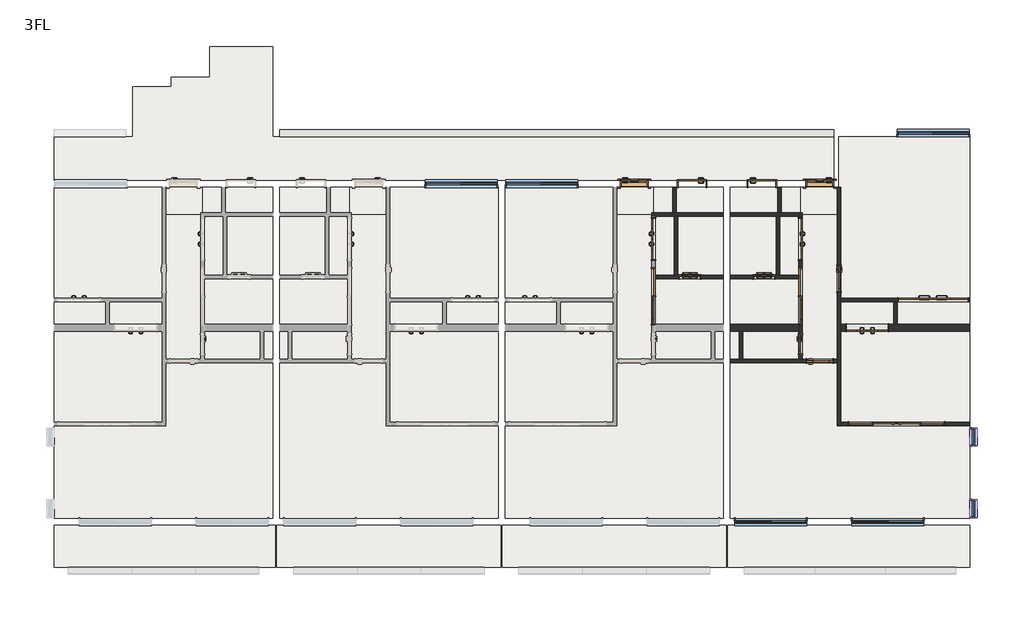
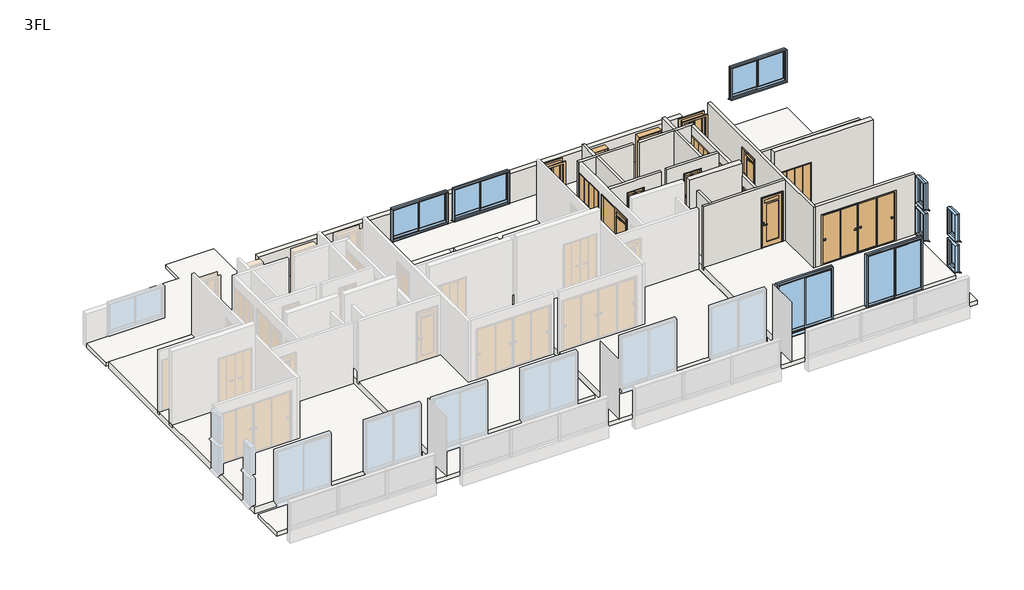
# One storey, part 3 of 3: 18 walls, 16 doors, 14 slabs, 9 windows.
"""IFC4 building model written with IfcOpenShell, lengths in millimetres."""

from ifc_helpers import new_model, si_unit, frame, origin, place, context, project, spatial, polyline, outline, extrude, faceted_brep, transform, mapped, element, save
from components import door_800x2000_a7d1584b, door_800x2000_010bfebf, w1200h2000_6a144d60, w1200h2000_99d19fb3, w1200h2000_ebe1d490, w1600h2000_4c3c234a, w1600h2000_ca690e72, w2000h2000_5dbb6d6a, w2800h2000_04aa64cd, w600h2000_6a266bef, w600h2000_94bb9c3c, w600h2000_8ea70a65, w800h2000_1d97c4d4, w800h2000_13e9f519, w800h2000_ccb03061, w800h2000_0ab7d42c, window_2000x1200_fc91d1cf, window_2000x2000_f1ff98da, window_450x1000_1cddc73c

model = new_model("IFC4")

# Units and contexts
model_context = context("Model", 3, world=origin())
ifc_project = project(units=[si_unit("LENGTHUNIT", "METRE", prefix="MILLI")], contexts=[model_context])

# Site, building, storey
site = spatial("IfcSite", under=ifc_project)
building = spatial("IfcBuilding", under=site)
storey = spatial("IfcBuildingStorey", under=building, Name="3FL", Elevation=7000.0)

# Doors
placement = place(None, origin())
door_800x2000_shape = door_800x2000_a7d1584b(model_context)
element("IfcDoor", 1, ObjectType="片開き3 : 800x2000", at=placement, inside=storey, context=model_context, shape_type="MappedRepresentation", body=[
    mapped(door_800x2000_shape, transform((5521.2812754, -5700.1171638, 7000.0), x_axis=(1.0, 0.0, 0.0), y_axis=(0.0, 1.0, 0.0), z_axis=(0.0, 0.0, 1.0))),
])
door_800x2000_2_shape = door_800x2000_010bfebf(model_context)
element("IfcDoor", 2, ObjectType="片開き3 : 800x2000", at=placement, inside=storey, context=model_context, shape_type="MappedRepresentation", body=[
    mapped(door_800x2000_2_shape, transform((10821.2812754, -5700.1171638, 7000.0), x_axis=(-1.0, 0.0, 0.0), y_axis=(0.0, -1.0, 0.0), z_axis=(0.0, 0.0, 1.0))),
])
w1200h2000_shape = w1200h2000_6a144d60(model_context)
element("IfcDoor", 3, ObjectType="木製折戸 : w1200h2000", at=placement, inside=storey, context=model_context, shape_type="MappedRepresentation", body=[
    mapped(w1200h2000_shape, transform((6071.2812754, -7280.1171638, 7100.0), x_axis=(0.0, 1.0, 0.0), y_axis=(-1.0, 0.0, 0.0), z_axis=(0.0, 0.0, 1.0))),
])
w1200h2000_2_shape = w1200h2000_99d19fb3(model_context)
element("IfcDoor", 4, ObjectType="木製折戸 : w1200h2000", at=placement, inside=storey, context=model_context, shape_type="MappedRepresentation", body=[
    mapped(w1200h2000_2_shape, transform((10271.2812754, -7280.1171638, 7100.0), x_axis=(0.0, 1.0, 0.0), y_axis=(-1.0, 0.0, 0.0), z_axis=(0.0, 0.0, 1.0))),
])
w1200h2000_3_shape = w1200h2000_ebe1d490(model_context)
element("IfcDoor", 5, ObjectType="木製折戸 : w1200h2000", at=placement, inside=storey, context=model_context, shape_type="MappedRepresentation", body=[
    mapped(w1200h2000_3_shape, transform((12183.7812754, -9820.1171638, 7100.0), x_axis=(1.0, 0.0, 0.0), y_axis=(0.0, 1.0, 0.0), z_axis=(0.0, 0.0, 1.0))),
])
w1600h2000_shape = w1600h2000_4c3c234a(model_context)
element("IfcDoor", 6, ObjectType="片引戸CL2017 : w1600h2000", at=placement, inside=storey, context=model_context, shape_type="MappedRepresentation", body=[
    mapped(w1600h2000_shape, transform((6071.2812754, -8920.1171638, 7100.0), x_axis=(0.0, -1.0, 0.0), y_axis=(1.0, 0.0, 0.0), z_axis=(0.0, 0.0, 1.0))),
])
w1600h2000_2_shape = w1600h2000_ca690e72(model_context)
element("IfcDoor", 7, ObjectType="片引戸CL2017 : w1600h2000", at=placement, inside=storey, context=model_context, shape_type="MappedRepresentation", body=[
    mapped(w1600h2000_2_shape, transform((10271.2812754, -8920.1171638, 7100.0), x_axis=(0.0, -1.0, 0.0), y_axis=(1.0, 0.0, 0.0), z_axis=(0.0, 0.0, 1.0))),
])
w2000h2000_shape = w2000h2000_5dbb6d6a(model_context)
element("IfcDoor", 8, ObjectType="木製折戸 : w2000h2000", at=placement, inside=storey, context=model_context, shape_type="MappedRepresentation", body=[
    mapped(w2000h2000_shape, transform((14066.2812754, -9020.1171638, 7100.0), x_axis=(-1.0, 0.0, 0.0), y_axis=(0.0, -1.0, 0.0), z_axis=(0.0, 0.0, 1.0))),
])
w2800h2000_shape = w2800h2000_04aa64cd(model_context)
element("IfcDoor", 9, ObjectType="引違い 4 枚 2 溝_襖 : w2800h2000", at=placement, inside=storey, context=model_context, shape_type="MappedRepresentation", body=[
    mapped(w2800h2000_shape, transform((13026.8167793, -12570.1171638, 7100.0), x_axis=(1.0, 0.0, 0.0), y_axis=(0.0, 1.0, 0.0), z_axis=(0.0, 0.0, 1.0))),
])
w600h2000_shape = w600h2000_6a266bef(model_context)
element("IfcDoor", 10, ObjectType="浴室折戸 : w600h2000", at=placement, inside=storey, context=model_context, shape_type="MappedRepresentation", body=[
    mapped(w600h2000_shape, transform((7111.2812754, -8370.1171638, 7100.0), x_axis=(1.0, 0.0, 0.0), y_axis=(0.0, 1.0, 0.0), z_axis=(0.0, 0.0, 1.0))),
])
w600h2000_2_shape = w600h2000_94bb9c3c(model_context)
element("IfcDoor", 11, ObjectType="浴室折戸 : w600h2000", at=placement, inside=storey, context=model_context, shape_type="MappedRepresentation", body=[
    mapped(w600h2000_2_shape, transform((9231.2812754, -8370.1171638, 7100.0), x_axis=(-1.0, 0.0, 0.0), y_axis=(0.0, -1.0, 0.0), z_axis=(0.0, 0.0, 1.0))),
])
w600h2000_3_shape = w600h2000_8ea70a65(model_context)
element("IfcDoor", 12, ObjectType="片開戸CL2058 : w600h2000", at=placement, inside=storey, context=model_context, shape_type="MappedRepresentation", body=[
    mapped(w600h2000_3_shape, transform((10271.2812754, -10295.1171638, 7100.0), x_axis=(0.0, -1.0, 0.0), y_axis=(1.0, 0.0, 0.0), z_axis=(0.0, 0.0, 1.0))),
])
w800h2000_shape = w800h2000_1d97c4d4(model_context)
element("IfcDoor", 13, ObjectType="片開 : w800h2000", at=placement, inside=storey, context=model_context, shape_type="MappedRepresentation", body=[
    mapped(w800h2000_shape, transform((7171.2812754, -5700.1171638, 7000.0), x_axis=(-1.0, 0.0, 0.0), y_axis=(0.0, -1.0, 0.0), z_axis=(0.0, 0.0, 1.0))),
])
w800h2000_2_shape = w800h2000_13e9f519(model_context)
element("IfcDoor", 14, ObjectType="片開戸CL2058 : w800h2000", at=placement, inside=storey, context=model_context, shape_type="MappedRepresentation", body=[
    mapped(w800h2000_2_shape, transform((10821.2812754, -10770.1171638, 7100.0), x_axis=(1.0, 0.0, 0.0), y_axis=(0.0, 1.0, 0.0), z_axis=(0.0, 0.0, 1.0))),
])
w800h2000_3_shape = w800h2000_ccb03061(model_context)
element("IfcDoor", 15, ObjectType="片開戸CL2058 : w800h2000", at=placement, inside=storey, context=model_context, shape_type="MappedRepresentation", body=[
    mapped(w800h2000_3_shape, transform((11371.2812754, -8420.1171638, 7100.0), x_axis=(0.0, -1.0, 0.0), y_axis=(1.0, 0.0, 0.0), z_axis=(0.0, 0.0, 1.0))),
])
w800h2000_4_shape = w800h2000_0ab7d42c(model_context)
element("IfcDoor", 16, ObjectType="片開 : w800h2000", at=placement, inside=storey, context=model_context, shape_type="MappedRepresentation", body=[
    mapped(w800h2000_4_shape, transform((9171.2812754, -5700.1171638, 7000.0), x_axis=(1.0, 0.0, 0.0), y_axis=(0.0, 1.0, 0.0), z_axis=(0.0, 0.0, 1.0))),
])

# Slabs
element("IfcSlab", 17, ObjectType="RC150＋100", at=placement, inside=storey, context=model_context, shape_type="SweptSolid", body=[
    extrude(outline(polyline([(-4828.7187246, -15270.1171638), (-11078.7187246, -15270.1171638), (-11078.7187246, -5800.1171638), (-7928.7187246, -5800.1171638), (-7928.7187246, -6580.1171638), (-6828.7187246, -6580.1171638), (-6828.7187246, -5800.1171638), (-4828.7187246, -5800.1171638), (-4828.7187246, -6580.1171638), (-6188.7187246, -6580.1171638), (-6188.7187246, -8370.1171638), (-4828.7187246, -8370.1171638), (-4828.7187246, -15270.1171638)])), frame((0.0, 0.0, 6850.0), z_axis=(0.0, 0.0, 1.0), x_axis=(1.0, 0.0, 0.0)), (0.0, 0.0, 1.0), 250.0),
])
element("IfcSlab", 18, ObjectType="RC150＋100", at=placement, inside=storey, context=model_context, shape_type="SweptSolid", body=[
    extrude(outline(polyline([(-4628.7187246, -15270.1171638), (-4628.7187246, -8370.1171638), (-3268.7187246, -8370.1171638), (-3268.7187246, -6580.1171638), (-4628.7187246, -6580.1171638), (-4628.7187246, -5800.1171638), (-2628.7187246, -5800.1171638), (-2628.7187246, -6580.1171638), (-1528.7187246, -6580.1171638), (-1528.7187246, -5800.1171638), (1621.2812754, -5800.1171638), (1621.2812754, -15270.1171638), (-4628.7187246, -15270.1171638)])), frame((0.0, 0.0, 6850.0), z_axis=(0.0, 0.0, 1.0), x_axis=(1.0, 0.0, 0.0)), (0.0, 0.0, 1.0), 250.0),
])
element("IfcSlab", 19, ObjectType="RC150＋100", at=placement, inside=storey, context=model_context, shape_type="SweptSolid", body=[
    extrude(outline(polyline([(8071.2812754, -15270.1171638), (1821.2812754, -15270.1171638), (1821.2812754, -5800.1171638), (4971.2812754, -5800.1171638), (4971.2812754, -6580.1171638), (6071.2812754, -6580.1171638), (6071.2812754, -5800.1171638), (8071.2812754, -5800.1171638), (8071.2812754, -6580.1171638), (6711.2812754, -6580.1171638), (6711.2812754, -8370.1171638), (8071.2812754, -8370.1171638), (8071.2812754, -15270.1171638)])), frame((0.0, 0.0, 6850.0), z_axis=(0.0, 0.0, 1.0), x_axis=(1.0, 0.0, 0.0)), (0.0, 0.0, 1.0), 250.0),
])
element("IfcSlab", 20, ObjectType="RC150＋100", at=placement, inside=storey, context=model_context, shape_type="SweptSolid", body=[
    extrude(outline(polyline([(8271.2812754, -15270.1171638), (8271.2812754, -8370.1171638), (9631.2812754, -8370.1171638), (9631.2812754, -6580.1171638), (8271.2812754, -6580.1171638), (8271.2812754, -5800.1171638), (10271.2812754, -5800.1171638), (10271.2812754, -6580.1171638), (11371.2812754, -6580.1171638), (11371.2812754, -4350.1171638), (15121.2812754, -4350.1171638), (15121.2812754, -15270.1171638), (8271.2812754, -15270.1171638)])), frame((0.0, 0.0, 6850.0), z_axis=(0.0, 0.0, 1.0), x_axis=(1.0, 0.0, 0.0)), (0.0, 0.0, 1.0), 250.0),
])
element("IfcSlab", 21, ObjectType="RC150", at=placement, inside=storey, context=model_context, shape_type="SweptSolid", body=[
    extrude(outline(polyline([(-4828.7187246, -8370.1171638), (-6188.7187246, -8370.1171638), (-6188.7187246, -6580.1171638), (-4828.7187246, -6580.1171638), (-4828.7187246, -8370.1171638)])), frame((0.0, 0.0, 6850.0), z_axis=(0.0, 0.0, 1.0), x_axis=(1.0, 0.0, 0.0)), (0.0, 0.0, 1.0), 150.0),
])
element("IfcSlab", 22, ObjectType="RC150", at=placement, inside=storey, context=model_context, shape_type="SweptSolid", body=[
    extrude(outline(polyline([(-6828.7187246, -6580.1171638), (-7928.7187246, -6580.1171638), (-7928.7187246, -5800.1171638), (-6828.7187246, -5800.1171638), (-6828.7187246, -6580.1171638)])), frame((0.0, 0.0, 6800.0), z_axis=(0.0, 0.0, 1.0), x_axis=(1.0, 0.0, 0.0)), (0.0, 0.0, 1.0), 150.0),
])
element("IfcSlab", 23, ObjectType="RC150", at=placement, inside=storey, context=model_context, shape_type="SweptSolid", body=[
    extrude(outline(polyline([(-4628.7187246, -8370.1171638), (-4628.7187246, -6580.1171638), (-3268.7187246, -6580.1171638), (-3268.7187246, -8370.1171638), (-4628.7187246, -8370.1171638)])), frame((0.0, 0.0, 6850.0), z_axis=(0.0, 0.0, 1.0), x_axis=(1.0, 0.0, 0.0)), (0.0, 0.0, 1.0), 150.0),
])
element("IfcSlab", 24, ObjectType="RC150", at=placement, inside=storey, context=model_context, shape_type="SweptSolid", body=[
    extrude(outline(polyline([(-2628.7187246, -6580.1171638), (-2628.7187246, -5800.1171638), (-1528.7187246, -5800.1171638), (-1528.7187246, -6580.1171638), (-2628.7187246, -6580.1171638)])), frame((0.0, 0.0, 6800.0), z_axis=(0.0, 0.0, 1.0), x_axis=(1.0, 0.0, 0.0)), (0.0, 0.0, 1.0), 150.0),
])
element("IfcSlab", 25, ObjectType="RC150", at=placement, inside=storey, context=model_context, shape_type="SweptSolid", body=[
    extrude(outline(polyline([(8071.2812754, -8370.1171638), (6711.2812754, -8370.1171638), (6711.2812754, -6580.1171638), (8071.2812754, -6580.1171638), (8071.2812754, -8370.1171638)])), frame((0.0, 0.0, 6850.0), z_axis=(0.0, 0.0, 1.0), x_axis=(1.0, 0.0, 0.0)), (0.0, 0.0, 1.0), 150.0),
])
element("IfcSlab", 26, ObjectType="RC150", at=placement, inside=storey, context=model_context, shape_type="SweptSolid", body=[
    extrude(outline(polyline([(6071.2812754, -6580.1171638), (4971.2812754, -6580.1171638), (4971.2812754, -5800.1171638), (6071.2812754, -5800.1171638), (6071.2812754, -6580.1171638)])), frame((0.0, 0.0, 6800.0), z_axis=(0.0, 0.0, 1.0), x_axis=(1.0, 0.0, 0.0)), (0.0, 0.0, 1.0), 150.0),
])
element("IfcSlab", 27, ObjectType="RC150", at=placement, inside=storey, context=model_context, shape_type="SweptSolid", body=[
    extrude(outline(polyline([(8271.2812754, -8370.1171638), (8271.2812754, -6580.1171638), (9631.2812754, -6580.1171638), (9631.2812754, -8370.1171638), (8271.2812754, -8370.1171638)])), frame((0.0, 0.0, 6850.0), z_axis=(0.0, 0.0, 1.0), x_axis=(1.0, 0.0, 0.0)), (0.0, 0.0, 1.0), 150.0),
])
element("IfcSlab", 28, ObjectType="RC150", at=placement, inside=storey, context=model_context, shape_type="SweptSolid", body=[
    extrude(outline(polyline([(10271.2812754, -6580.1171638), (10271.2812754, -5800.1171638), (11371.2812754, -5800.1171638), (11371.2812754, -6580.1171638), (10271.2812754, -6580.1171638)])), frame((0.0, 0.0, 6800.0), z_axis=(0.0, 0.0, 1.0), x_axis=(1.0, 0.0, 0.0)), (0.0, 0.0, 1.0), 150.0),
])
element("IfcSlab", 29, ObjectType="RC150", at=placement, inside=storey, context=model_context, shape_type="SweptSolid", body=[
    extrude(outline(polyline([(15121.2812754, -15470.1171638), (15121.2812754, -16670.1171638), (-11078.7187246, -16670.1171638), (-11078.7187246, -15470.1171638), (15121.2812754, -15470.1171638)])), frame((0.0, 0.0, 6800.0), z_axis=(0.0, 0.0, 1.0), x_axis=(1.0, 0.0, 0.0)), (0.0, 0.0, 1.0), 150.0),
])
element("IfcSlab", 30, ObjectType="RC150", at=placement, inside=storey, context=model_context, shape_type="SweptSolid", body=[
    extrude(outline(polyline([(-8828.7187246, -4350.1171638), (-8828.7187246, -2920.1171638), (-7728.7187246, -2920.1171638), (-7728.7187246, -2660.1171638), (-6628.7187246, -2660.1171638), (-6628.7187246, -1775.1171638), (-4828.7187246, -1775.1171638), (-4828.7187246, -4350.1171638), (11221.2812754, -4350.1171638), (11221.2812754, -5600.1171638), (-11078.7187246, -5600.1171638), (-11078.7187246, -4350.1171638), (-8828.7187246, -4350.1171638)])), frame((0.0, 0.0, 6800.0), z_axis=(0.0, 0.0, 1.0), x_axis=(1.0, 0.0, 0.0)), (0.0, 0.0, 1.0), 150.0),
])

# Walls
element("IfcWall", 31, ObjectType="(R)RC200", at=placement, inside=storey, context=model_context, shape_type="Brep", body=[
    faceted_brep([(15121.2812754, -9720.1171638, 7000.0), (13046.2812754, -9720.1171638, 7000.0), (12946.2812754, -9720.1171638, 7000.0), (11421.2812754, -9720.1171638, 7000.0), (11421.2812754, -9720.1171638, 10000.0), (15121.2812754, -9720.1171638, 10000.0), (12803.7812754, -9720.1171638, 9120.0), (11563.7812754, -9720.1171638, 9120.0), (11563.7812754, -9720.1171638, 7100.0), (12803.7812754, -9720.1171638, 7100.0), (15121.2812754, -9920.1171638, 7000.0), (15121.2812754, -9920.1171638, 10000.0), (11421.2812754, -9920.1171638, 10000.0), (11421.2812754, -9920.1171638, 7000.0), (12803.7812754, -9920.1171638, 9120.0), (12803.7812754, -9920.1171638, 7100.0), (11563.7812754, -9920.1171638, 7100.0), (11563.7812754, -9920.1171638, 9120.0)], [[[0, 1, 2, 3, 4, 5], [6, 7, 8, 9]], [[10, 11, 12, 13], [14, 15, 16, 17]], [[3, 2, 1, 0, 10, 13]], [[5, 4, 12, 11]], [[4, 3, 13, 12]], [[15, 14, 6, 9]], [[16, 15, 9, 8]], [[17, 16, 8, 7]], [[14, 17, 7, 6]], [[0, 5, 11, 10]]]),
])
element("IfcWall", 32, ObjectType="(R)RC200", at=placement, inside=storey, context=model_context, shape_type="Brep", body=[
    faceted_brep([(10221.2812754, -9720.1171638, 7000.0), (8271.2812754, -9720.1171638, 7000.0), (8271.2812754, -9720.1171638, 10000.0), (10221.2812754, -9720.1171638, 10000.0), (10221.2812754, -9920.1171638, 7000.0), (10221.2812754, -9920.1171638, 10000.0), (8271.2812754, -9920.1171638, 10000.0), (8271.2812754, -9920.1171638, 7000.0), (8521.2812754, -9920.1171638, 7000.0), (8621.2812754, -9920.1171638, 7000.0)], [[[0, 1, 2, 3]], [[4, 5, 6, 7, 8, 9]], [[1, 0, 4, 9, 8, 7]], [[3, 2, 6, 5]], [[0, 3, 5, 4]], [[2, 1, 7, 6]]]),
])
element("IfcWall", 33, ObjectType="(R)RC200", at=placement, inside=storey, context=model_context, shape_type="SweptSolid", body=[
    extrude(outline(polyline([(11221.2812754, -4350.1171638), (-4628.7187246, -4350.1171638), (-4628.7187246, -4150.1171638), (11221.2812754, -4150.1171638), (11221.2812754, -4350.1171638)])), frame((0.0, 0.0, 6800.0), z_axis=(0.0, 0.0, 1.0), x_axis=(1.0, 0.0, 0.0)), (0.0, 0.0, 1.0), 1300.0),
])
element("IfcWall", 34, ObjectType="(L1)LGS100", at=placement, inside=storey, context=model_context, shape_type="Brep", body=[
    faceted_brep([(6121.2812754, -8420.1171638, 7000.0), (8071.2812754, -8420.1171638, 7000.0), (8071.2812754, -8420.1171638, 9500.0), (6121.2812754, -8420.1171638, 9500.0), (7431.2812754, -8420.1171638, 9120.0), (7431.2812754, -8420.1171638, 7100.0), (6791.2812754, -8420.1171638, 7100.0), (6791.2812754, -8420.1171638, 9120.0), (6121.2812754, -8320.1171638, 7000.0), (6121.2812754, -8320.1171638, 9500.0), (6661.2812754, -8320.1171638, 9500.0), (6761.2812754, -8320.1171638, 9500.0), (8071.2812754, -8320.1171638, 9500.0), (8071.2812754, -8320.1171638, 7000.0), (6761.2812754, -8320.1171638, 7000.0), (6661.2812754, -8320.1171638, 7000.0), (7431.2812754, -8320.1171638, 9120.0), (6791.2812754, -8320.1171638, 9120.0), (6791.2812754, -8320.1171638, 7100.0), (7431.2812754, -8320.1171638, 7100.0)], [[[0, 1, 2, 3], [4, 5, 6, 7]], [[8, 9, 10, 11, 12, 13, 14, 15], [16, 17, 18, 19]], [[1, 0, 8, 15, 14, 13]], [[3, 2, 12, 11, 10, 9]], [[0, 3, 9, 8]], [[5, 4, 16, 19]], [[6, 5, 19, 18]], [[7, 6, 18, 17]], [[4, 7, 17, 16]], [[2, 1, 13, 12]]]),
])
element("IfcWall", 35, ObjectType="(L1)LGS100", at=placement, inside=storey, context=model_context, shape_type="Brep", body=[
    faceted_brep([(6021.2812754, -6630.1171638, 7000.0), (6121.2812754, -6630.1171638, 7000.0), (6661.2812754, -6630.1171638, 7000.0), (6761.2812754, -6630.1171638, 7000.0), (8071.2812754, -6630.1171638, 7000.0), (8071.2812754, -6630.1171638, 9500.0), (6761.2812754, -6630.1171638, 9500.0), (6661.2812754, -6630.1171638, 9500.0), (6121.2812754, -6630.1171638, 9500.0), (6021.2812754, -6630.1171638, 9500.0), (6021.2812754, -6530.1171638, 7000.0), (6021.2812754, -6530.1171638, 9500.0), (6621.2812754, -6530.1171638, 9500.0), (6721.2812754, -6530.1171638, 9500.0), (8071.2812754, -6530.1171638, 9500.0), (8071.2812754, -6530.1171638, 7000.0), (6721.2812754, -6530.1171638, 7000.0), (6621.2812754, -6530.1171638, 7000.0)], [[[0, 1, 2, 3, 4, 5, 6, 7, 8, 9]], [[10, 11, 12, 13, 14, 15, 16, 17]], [[4, 3, 2, 1, 0, 10, 17, 16, 15]], [[9, 8, 7, 6, 5, 14, 13, 12, 11]], [[0, 9, 11, 10]], [[5, 4, 15, 14]]]),
])
element("IfcWall", 36, ObjectType="(L1)LGS100", at=placement, inside=storey, context=model_context, shape_type="SweptSolid", body=[
    extrude(outline(polyline([(6721.2812754, -5800.1171638), (6721.2812754, -6530.1171638), (6621.2812754, -6530.1171638), (6621.2812754, -5800.1171638), (6721.2812754, -5800.1171638)])), frame((0.0, 0.0, 7000.0), z_axis=(0.0, 0.0, 1.0), x_axis=(1.0, 0.0, 0.0)), (0.0, 0.0, 1.0), 2500.0),
])
element("IfcWall", 37, ObjectType="(L1)LGS100", at=placement, inside=storey, context=model_context, shape_type="SweptSolid", body=[
    extrude(outline(polyline([(6761.2812754, -6630.1171638), (6761.2812754, -8320.1171638), (6661.2812754, -8320.1171638), (6661.2812754, -6630.1171638), (6761.2812754, -6630.1171638)])), frame((0.0, 0.0, 7000.0), z_axis=(0.0, 0.0, 1.0), x_axis=(1.0, 0.0, 0.0)), (0.0, 0.0, 1.0), 2500.0),
])
element("IfcWall", 38, ObjectType="(L1)LGS100", at=placement, inside=storey, context=model_context, shape_type="Brep", body=[
    faceted_brep([(15121.2812754, -8970.1171638, 7000.0), (11421.2812754, -8970.1171638, 7000.0), (11421.2812754, -8970.1171638, 9500.0), (15121.2812754, -8970.1171638, 9500.0), (13046.2812754, -8970.1171638, 9120.0), (13046.2812754, -8970.1171638, 7100.0), (15086.2812754, -8970.1171638, 7100.0), (15086.2812754, -8970.1171638, 9120.0), (11421.2812754, -9070.1171638, 7000.0), (12946.2812754, -9070.1171638, 7000.0), (13046.2812754, -9070.1171638, 7000.0), (15121.2812754, -9070.1171638, 7000.0), (15121.2812754, -9070.1171638, 9500.0), (13046.2812754, -9070.1171638, 9500.0), (12946.2812754, -9070.1171638, 9500.0), (11421.2812754, -9070.1171638, 9500.0), (13046.2812754, -9070.1171638, 7100.0), (13046.2812754, -9070.1171638, 9120.0), (15086.2812754, -9070.1171638, 9120.0), (15086.2812754, -9070.1171638, 7100.0)], [[[0, 1, 2, 3], [4, 5, 6, 7]], [[8, 9, 10, 11, 12, 13, 14, 15], [16, 17, 18, 19]], [[1, 0, 11, 10, 9, 8]], [[3, 2, 15, 14, 13, 12]], [[2, 1, 8, 15]], [[4, 17, 16, 5]], [[5, 16, 19, 6]], [[17, 4, 7, 18]], [[18, 7, 6, 19]], [[0, 3, 12, 11]]]),
])
element("IfcWall", 39, ObjectType="(L1)LGS100", at=placement, inside=storey, context=model_context, shape_type="Brep", body=[
    faceted_brep([(13046.2812754, -9720.1171638, 7000.0), (13046.2812754, -9070.1171638, 7000.0), (13046.2812754, -9070.1171638, 7100.0), (13046.2812754, -9070.1171638, 9120.0), (13046.2812754, -9070.1171638, 9500.0), (13046.2812754, -9720.1171638, 9500.0), (12946.2812754, -9720.1171638, 7000.0), (12946.2812754, -9720.1171638, 9500.0), (12946.2812754, -9070.1171638, 9500.0), (12946.2812754, -9070.1171638, 7000.0)], [[[0, 1, 2, 3, 4, 5]], [[6, 7, 8, 9]], [[1, 0, 6, 9]], [[5, 4, 8, 7]], [[0, 5, 7, 6]], [[4, 3, 2, 1, 9, 8]]]),
])
element("IfcWall", 40, ObjectType="(L1)LGS100", at=placement, inside=storey, context=model_context, shape_type="Brep", body=[
    faceted_brep([(11421.2812754, -12620.1171638, 7000.0), (11421.2812754, -12520.1171638, 7000.0), (11421.2812754, -9920.1171638, 7000.0), (11421.2812754, -9720.1171638, 7000.0), (11421.2812754, -9070.1171638, 7000.0), (11421.2812754, -8970.1171638, 7000.0), (11421.2812754, -5800.1171638, 7000.0), (11421.2812754, -5800.1171638, 9500.0), (11421.2812754, -8970.1171638, 9500.0), (11421.2812754, -9070.1171638, 9500.0), (11421.2812754, -12520.1171638, 9500.0), (11421.2812754, -12620.1171638, 9500.0), (11421.2812754, -8820.1171638, 7100.0), (11421.2812754, -8820.1171638, 9100.0), (11421.2812754, -8020.1171638, 9100.0), (11421.2812754, -8020.1171638, 7100.0), (11321.2812754, -12620.1171638, 7000.0), (11321.2812754, -12620.1171638, 9500.0), (11321.2812754, -10820.1171638, 9500.0), (11321.2812754, -10720.1171638, 9500.0), (11321.2812754, -5800.1171638, 9500.0), (11321.2812754, -5800.1171638, 7000.0), (11321.2812754, -10720.1171638, 7000.0), (11321.2812754, -10820.1171638, 7000.0), (11321.2812754, -8820.1171638, 7100.0), (11321.2812754, -8020.1171638, 7100.0), (11321.2812754, -8020.1171638, 9100.0), (11321.2812754, -8820.1171638, 9100.0)], [[[0, 1, 2, 3, 4, 5, 6, 7, 8, 9, 10, 11], [12, 13, 14, 15]], [[16, 17, 18, 19, 20, 21, 22, 23], [24, 25, 26, 27]], [[6, 5, 4, 3, 2, 1, 0, 16, 23, 22, 21]], [[11, 10, 9, 8, 7, 20, 19, 18, 17]], [[0, 11, 17, 16]], [[13, 12, 24, 27]], [[14, 13, 27, 26]], [[15, 14, 26, 25]], [[12, 15, 25, 24]], [[7, 6, 21, 20]]]),
])
element("IfcWall", 41, ObjectType="(L1)LGS100", at=placement, inside=storey, context=model_context, shape_type="Brep", body=[
    faceted_brep([(10221.2812754, -8320.1171638, 7000.0), (9681.2812754, -8320.1171638, 7000.0), (9581.2812754, -8320.1171638, 7000.0), (8271.2812754, -8320.1171638, 7000.0), (8271.2812754, -8320.1171638, 9500.0), (9581.2812754, -8320.1171638, 9500.0), (9681.2812754, -8320.1171638, 9500.0), (10221.2812754, -8320.1171638, 9500.0), (8911.2812754, -8320.1171638, 9120.0), (8911.2812754, -8320.1171638, 7100.0), (9551.2812754, -8320.1171638, 7100.0), (9551.2812754, -8320.1171638, 9120.0), (10221.2812754, -8420.1171638, 7000.0), (10221.2812754, -8420.1171638, 9500.0), (8271.2812754, -8420.1171638, 9500.0), (8271.2812754, -8420.1171638, 7000.0), (8911.2812754, -8420.1171638, 9120.0), (9551.2812754, -8420.1171638, 9120.0), (9551.2812754, -8420.1171638, 7100.0), (8911.2812754, -8420.1171638, 7100.0)], [[[0, 1, 2, 3, 4, 5, 6, 7], [8, 9, 10, 11]], [[12, 13, 14, 15], [16, 17, 18, 19]], [[3, 2, 1, 0, 12, 15]], [[7, 6, 5, 4, 14, 13]], [[0, 7, 13, 12]], [[9, 8, 16, 19]], [[10, 9, 19, 18]], [[11, 10, 18, 17]], [[8, 11, 17, 16]], [[4, 3, 15, 14]]]),
])
element("IfcWall", 42, ObjectType="(L1)LGS100", at=placement, inside=storey, context=model_context, shape_type="Brep", body=[
    faceted_brep([(10321.2812754, -10720.1171638, 7000.0), (10321.2812754, -6630.1171638, 7000.0), (10321.2812754, -6630.1171638, 9500.0), (10321.2812754, -10720.1171638, 9500.0), (10321.2812754, -10595.1171638, 7100.0), (10321.2812754, -10595.1171638, 9100.0), (10321.2812754, -9995.1171638, 9100.0), (10321.2812754, -9995.1171638, 7100.0), (10321.2812754, -6660.1171638, 7100.0), (10321.2812754, -7900.1171638, 7100.0), (10321.2812754, -7900.1171638, 9120.0), (10321.2812754, -6660.1171638, 9120.0), (10321.2812754, -9745.1171638, 7100.0), (10321.2812754, -9745.1171638, 9140.0), (10321.2812754, -8095.1171638, 9140.0), (10321.2812754, -8095.1171638, 7100.0), (10221.2812754, -6630.1171638, 7000.0), (10221.2812754, -8320.1171638, 7000.0), (10221.2812754, -8420.1171638, 7000.0), (10221.2812754, -9720.1171638, 7000.0), (10221.2812754, -9920.1171638, 7000.0), (10221.2812754, -10720.1171638, 7000.0), (10221.2812754, -10720.1171638, 9500.0), (10221.2812754, -8420.1171638, 9500.0), (10221.2812754, -8320.1171638, 9500.0), (10221.2812754, -6630.1171638, 9500.0), (10221.2812754, -10595.1171638, 7100.0), (10221.2812754, -9995.1171638, 7100.0), (10221.2812754, -9995.1171638, 9100.0), (10221.2812754, -10595.1171638, 9100.0), (10221.2812754, -7900.1171638, 7100.0), (10221.2812754, -6660.1171638, 7100.0), (10221.2812754, -6660.1171638, 9120.0), (10221.2812754, -7900.1171638, 9120.0), (10221.2812754, -9745.1171638, 7100.0), (10221.2812754, -8095.1171638, 7100.0), (10221.2812754, -8095.1171638, 9140.0), (10221.2812754, -9745.1171638, 9140.0)], [[[0, 1, 2, 3], [4, 5, 6, 7], [8, 9, 10, 11], [12, 13, 14, 15]], [[16, 17, 18, 19, 20, 21, 22, 23, 24, 25], [26, 27, 28, 29], [30, 31, 32, 33], [34, 35, 36, 37]], [[1, 0, 21, 20, 19, 18, 17, 16]], [[3, 2, 25, 24, 23, 22]], [[0, 3, 22, 21]], [[2, 1, 16, 25]], [[5, 4, 26, 29]], [[6, 5, 29, 28]], [[7, 6, 28, 27]], [[4, 7, 27, 26]], [[8, 31, 30, 9]], [[9, 30, 33, 10]], [[10, 33, 32, 11]], [[13, 12, 34, 37]], [[14, 13, 37, 36]], [[15, 14, 36, 35]], [[12, 15, 35, 34]], [[31, 8, 11, 32]]]),
])
element("IfcWall", 43, ObjectType="(L1)LGS100", at=placement, inside=storey, context=model_context, shape_type="Brep", body=[
    faceted_brep([(10321.2812754, -6530.1171638, 7000.0), (9721.2812754, -6530.1171638, 7000.0), (9621.2812754, -6530.1171638, 7000.0), (8271.2812754, -6530.1171638, 7000.0), (8271.2812754, -6530.1171638, 9500.0), (9621.2812754, -6530.1171638, 9500.0), (9721.2812754, -6530.1171638, 9500.0), (10321.2812754, -6530.1171638, 9500.0), (10321.2812754, -6630.1171638, 7000.0), (10321.2812754, -6630.1171638, 9500.0), (10221.2812754, -6630.1171638, 9500.0), (9681.2812754, -6630.1171638, 9500.0), (9581.2812754, -6630.1171638, 9500.0), (8271.2812754, -6630.1171638, 9500.0), (8271.2812754, -6630.1171638, 7000.0), (9581.2812754, -6630.1171638, 7000.0), (9681.2812754, -6630.1171638, 7000.0), (10221.2812754, -6630.1171638, 7000.0)], [[[0, 1, 2, 3, 4, 5, 6, 7]], [[8, 9, 10, 11, 12, 13, 14, 15, 16, 17]], [[3, 2, 1, 0, 8, 17, 16, 15, 14]], [[7, 6, 5, 4, 13, 12, 11, 10, 9]], [[0, 7, 9, 8]], [[4, 3, 14, 13]]]),
])
element("IfcWall", 44, ObjectType="(L1)LGS100", at=placement, inside=storey, context=model_context, shape_type="SweptSolid", body=[
    extrude(outline(polyline([(9721.2812754, -5800.1171638), (9721.2812754, -6530.1171638), (9621.2812754, -6530.1171638), (9621.2812754, -5800.1171638), (9721.2812754, -5800.1171638)])), frame((0.0, 0.0, 7000.0), z_axis=(0.0, 0.0, 1.0), x_axis=(1.0, 0.0, 0.0)), (0.0, 0.0, 1.0), 2500.0),
])
element("IfcWall", 45, ObjectType="(L1)LGS100", at=placement, inside=storey, context=model_context, shape_type="SweptSolid", body=[
    extrude(outline(polyline([(9681.2812754, -6630.1171638), (9681.2812754, -8320.1171638), (9581.2812754, -8320.1171638), (9581.2812754, -6630.1171638), (9681.2812754, -6630.1171638)])), frame((0.0, 0.0, 7000.0), z_axis=(0.0, 0.0, 1.0), x_axis=(1.0, 0.0, 0.0)), (0.0, 0.0, 1.0), 2500.0),
])
element("IfcWall", 46, ObjectType="(L1)LGS100", at=placement, inside=storey, context=model_context, shape_type="SweptSolid", body=[
    extrude(outline(polyline([(8621.2812754, -9920.1171638), (8621.2812754, -10720.1171638), (8521.2812754, -10720.1171638), (8521.2812754, -9920.1171638), (8621.2812754, -9920.1171638)])), frame((0.0, 0.0, 7000.0), z_axis=(0.0, 0.0, 1.0), x_axis=(1.0, 0.0, 0.0)), (0.0, 0.0, 1.0), 2500.0),
])
element("IfcWall", 47, ObjectType="(L1)LGS100", at=placement, inside=storey, context=model_context, shape_type="Brep", body=[
    faceted_brep([(11321.2812754, -10720.1171638, 7000.0), (10321.2812754, -10720.1171638, 7000.0), (10221.2812754, -10720.1171638, 7000.0), (8621.2812754, -10720.1171638, 7000.0), (8521.2812754, -10720.1171638, 7000.0), (8271.2812754, -10720.1171638, 7000.0), (8271.2812754, -10720.1171638, 9500.0), (8521.2812754, -10720.1171638, 9500.0), (8621.2812754, -10720.1171638, 9500.0), (10221.2812754, -10720.1171638, 9500.0), (10321.2812754, -10720.1171638, 9500.0), (11321.2812754, -10720.1171638, 9500.0), (11221.2812754, -10720.1171638, 7100.0), (11221.2812754, -10720.1171638, 9100.0), (10421.2812754, -10720.1171638, 9100.0), (10421.2812754, -10720.1171638, 7100.0), (8271.2812754, -10820.1171638, 7000.0), (11321.2812754, -10820.1171638, 7000.0), (11321.2812754, -10820.1171638, 9500.0), (8271.2812754, -10820.1171638, 9500.0), (11221.2812754, -10820.1171638, 9100.0), (11221.2812754, -10820.1171638, 7100.0), (10421.2812754, -10820.1171638, 7100.0), (10421.2812754, -10820.1171638, 9100.0)], [[[0, 1, 2, 3, 4, 5, 6, 7, 8, 9, 10, 11], [12, 13, 14, 15]], [[16, 17, 18, 19], [20, 21, 22, 23]], [[5, 4, 3, 2, 1, 0, 17, 16]], [[11, 10, 9, 8, 7, 6, 19, 18]], [[0, 11, 18, 17]], [[12, 21, 20, 13]], [[13, 20, 23, 14]], [[14, 23, 22, 15]], [[21, 12, 15, 22]], [[6, 5, 16, 19]]]),
])
element("IfcWall", 48, ObjectType="(L1)LGS100", at=placement, inside=storey, context=model_context, shape_type="SweptSolid", body=[
    extrude(outline(polyline([(7000.0, 15121.2812754), (9500.0, 15121.2812754), (9500.0, 11421.2812754), (7000.0, 11421.2812754), (7000.0, 15121.2812754)]), holes=[polyline([(9100.0, 14421.2812754), (7100.0, 14421.2812754), (7100.0, 11621.2812754), (9100.0, 11621.2812754), (9100.0, 14421.2812754)])]), frame((0.0, -12620.1171638, 0.0), z_axis=(0.0, 1.0, 0.0), x_axis=(0.0, 0.0, 1.0)), (0.0, 0.0, 1.0), 100.0),
])

# Windows
window_2000x1200_shape = window_2000x1200_fc91d1cf(model_context)
element("IfcWindow", 49, ObjectType="鋼製_一般枠_引違い-二枚 : 2000x1200", at=placement, inside=storey, context=model_context, shape_type="MappedRepresentation", body=[
    mapped(window_2000x1200_shape, transform((571.2812754, -5700.1171638, 7250.0), x_axis=(1.0, 0.0, 0.0), y_axis=(0.0, 1.0, 0.0), z_axis=(0.0, 0.0, 1.0))),
])
element("IfcWindow", 50, ObjectType="鋼製_一般枠_引違い-二枚 : 2000x1200", at=placement, inside=storey, context=model_context, shape_type="MappedRepresentation", body=[
    mapped(window_2000x1200_shape, transform((2871.2812754, -5700.1171638, 7250.0), x_axis=(1.0, 0.0, 0.0), y_axis=(0.0, 1.0, 0.0), z_axis=(0.0, 0.0, 1.0))),
])
element("IfcWindow", 51, ObjectType="鋼製_一般枠_引違い-二枚 : 2000x1200", at=placement, inside=storey, context=model_context, shape_type="MappedRepresentation", body=[
    mapped(window_2000x1200_shape, transform((14071.2812754, -4250.1171638, 7250.0), x_axis=(1.0, 0.0, 0.0), y_axis=(0.0, 1.0, 0.0), z_axis=(0.0, 0.0, 1.0))),
])
window_2000x2000_shape = window_2000x2000_f1ff98da(model_context)
element("IfcWindow", 52, ObjectType="鋼製_一般枠_引違い-二枚 : 2000x2000", at=placement, inside=storey, context=model_context, shape_type="MappedRepresentation", body=[
    mapped(window_2000x2000_shape, transform((12771.2812754, -15370.1171638, 6200.0), x_axis=(-1.0, 0.0, 0.0), y_axis=(0.0, -1.0, 0.0), z_axis=(0.0, 0.0, 1.0))),
])
element("IfcWindow", 53, ObjectType="鋼製_一般枠_引違い-二枚 : 2000x2000", at=placement, inside=storey, context=model_context, shape_type="MappedRepresentation", body=[
    mapped(window_2000x2000_shape, transform((9421.2812754, -15370.1171638, 6200.0), x_axis=(-1.0, 0.0, 0.0), y_axis=(0.0, -1.0, 0.0), z_axis=(0.0, 0.0, 1.0))),
])
window_450x1000_shape = window_450x1000_1cddc73c(model_context)
element("IfcWindow", 54, ObjectType="鋼製_一般枠_嵌殺し : 450x1000", at=placement, inside=storey, context=model_context, shape_type="MappedRepresentation", body=[
    mapped(window_450x1000_shape, transform((15221.2812754, -14995.1171638, 6010.0), x_axis=(0.0, 1.0, 0.0), y_axis=(-1.0, 0.0, 0.0), z_axis=(0.0, 0.0, 1.0))),
])
element("IfcWindow", 55, ObjectType="鋼製_一般枠_嵌殺し : 450x1000", at=placement, inside=storey, context=model_context, shape_type="MappedRepresentation", body=[
    mapped(window_450x1000_shape, transform((15221.2812754, -12945.1171638, 6010.0), x_axis=(0.0, 1.0, 0.0), y_axis=(-1.0, 0.0, 0.0), z_axis=(0.0, 0.0, 1.0))),
])
element("IfcWindow", 56, ObjectType="鋼製_一般枠_嵌殺し : 450x1000", at=placement, inside=storey, context=model_context, shape_type="MappedRepresentation", body=[
    mapped(window_450x1000_shape, transform((15221.2812754, -14995.1171638, 7230.0), x_axis=(0.0, 1.0, 0.0), y_axis=(-1.0, 0.0, 0.0), z_axis=(0.0, 0.0, 1.0))),
])
element("IfcWindow", 57, ObjectType="鋼製_一般枠_嵌殺し : 450x1000", at=placement, inside=storey, context=model_context, shape_type="MappedRepresentation", body=[
    mapped(window_450x1000_shape, transform((15221.2812754, -12945.1171638, 7230.0), x_axis=(0.0, 1.0, 0.0), y_axis=(-1.0, 0.0, 0.0), z_axis=(0.0, 0.0, 1.0))),
])

save(model, "model.ifc")
